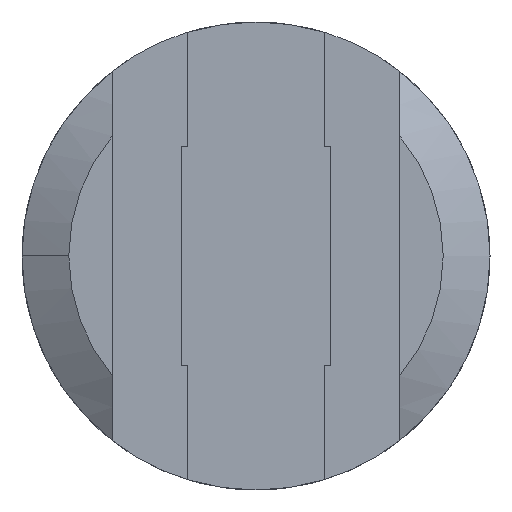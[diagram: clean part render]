
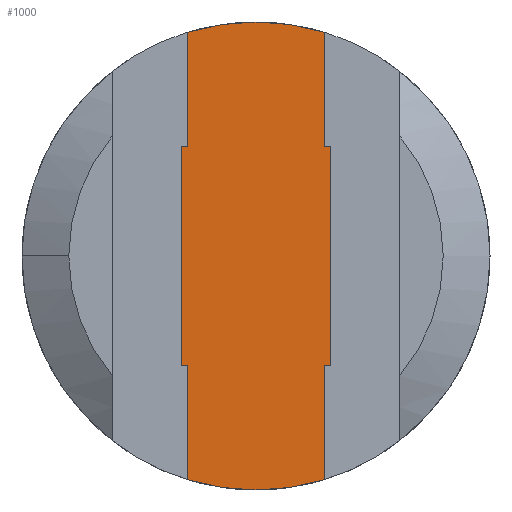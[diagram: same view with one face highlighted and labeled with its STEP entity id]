
A CAD part, top view. The second image highlights one B-rep face of the part: STEP entity #1000.
In plain terms, the highlighted planar face has unit normal (0, 0, 1).
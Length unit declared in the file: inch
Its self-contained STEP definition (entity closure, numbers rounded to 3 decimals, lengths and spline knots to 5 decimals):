
#86=CARTESIAN_POINT('',(0.,0.,0.128));
#87=DIRECTION('',(0.,0.,1.));
#88=DIRECTION('',(0.294,0.956,0.));
#89=AXIS2_PLACEMENT_3D('',#86,#87,#88);
#190=CARTESIAN_POINT('',(0.,0.,0.128));
#191=DIRECTION('',(0.,0.,1.));
#192=DIRECTION('',(-0.294,-0.956,0.));
#193=AXIS2_PLACEMENT_3D('',#190,#191,#192);
#269=DIRECTION('',(0.,1.,0.));
#270=VECTOR('',#269,0.18343);
#271=CARTESIAN_POINT('',(0.11025,0.175,
0.128));
#272=LINE('',#271,#270);
#273=DIRECTION('',(-1.,0.,0.));
#274=VECTOR('',#273,0.00975);
#275=CARTESIAN_POINT('',(0.12,0.175,0.128));
#276=LINE('',#275,#274);
#277=DIRECTION('',(0.,1.,0.));
#278=VECTOR('',#277,0.35);
#279=CARTESIAN_POINT('',(0.12,-0.175,0.128));
#280=LINE('',#279,#278);
#281=DIRECTION('',(1.,0.,0.));
#282=VECTOR('',#281,0.00975);
#283=CARTESIAN_POINT('',(0.11025,-0.175,
0.128));
#284=LINE('',#283,#282);
#285=DIRECTION('',(0.,1.,0.));
#286=VECTOR('',#285,0.18343);
#287=CARTESIAN_POINT('',(0.11025,-0.35843,
0.128));
#288=LINE('',#287,#286);
#289=DIRECTION('',(0.,1.,0.));
#290=VECTOR('',#289,0.35);
#291=CARTESIAN_POINT('',(-0.12,-0.175,0.128));
#292=LINE('',#291,#290);
#293=DIRECTION('',(0.,1.,0.));
#294=VECTOR('',#293,0.18343);
#295=CARTESIAN_POINT('',(-0.11025,0.175,
0.128));
#296=LINE('',#295,#294);
#331=DIRECTION('',(1.,0.,0.));
#332=VECTOR('',#331,0.00975);
#333=CARTESIAN_POINT('',(-0.12,0.175,0.128));
#334=LINE('',#333,#332);
#343=DIRECTION('',(-1.,0.,0.));
#344=VECTOR('',#343,0.00975);
#345=CARTESIAN_POINT('',(-0.11025,-0.175,
0.128));
#346=LINE('',#345,#344);
#351=DIRECTION('',(0.,1.,0.));
#352=VECTOR('',#351,0.18343);
#353=CARTESIAN_POINT('',(-0.11025,-0.35843,
0.128));
#354=LINE('',#353,#352);
#555=CARTESIAN_POINT('',(0.11025,0.35843,
0.128));
#557=VERTEX_POINT('',#555);
#560=CARTESIAN_POINT('',(-0.11025,0.35843,
0.128));
#562=VERTEX_POINT('',#560);
#597=CARTESIAN_POINT('',(-0.11025,-0.35843,
0.128));
#599=VERTEX_POINT('',#597);
#602=CARTESIAN_POINT('',(0.11025,-0.35843,
0.128));
#604=VERTEX_POINT('',#602);
#613=CARTESIAN_POINT('',(0.11025,0.175,
0.128));
#614=VERTEX_POINT('',#613);
#615=CARTESIAN_POINT('',(0.12,0.175,0.128));
#616=VERTEX_POINT('',#615);
#617=CARTESIAN_POINT('',(0.12,-0.175,0.128));
#618=VERTEX_POINT('',#617);
#619=CARTESIAN_POINT('',(0.11025,-0.175,
0.128));
#620=VERTEX_POINT('',#619);
#621=CARTESIAN_POINT('',(-0.11025,0.175,
0.128));
#622=VERTEX_POINT('',#621);
#631=CARTESIAN_POINT('',(-0.12,0.175,0.128));
#632=VERTEX_POINT('',#631);
#633=CARTESIAN_POINT('',(-0.12,-0.175,0.128));
#634=VERTEX_POINT('',#633);
#635=CARTESIAN_POINT('',(-0.11025,-0.175,
0.128));
#636=VERTEX_POINT('',#635);
#972=CARTESIAN_POINT('',(0.,0.,0.128));
#973=DIRECTION('',(0.,0.,1.));
#974=DIRECTION('',(1.,0.,0.));
#975=AXIS2_PLACEMENT_3D('',#972,#973,#974);
#976=PLANE('',#975);
#978=ORIENTED_EDGE('',*,*,#977,.T.);
#979=ORIENTED_EDGE('',*,*,#786,.F.);
#981=ORIENTED_EDGE('',*,*,#980,.F.);
#983=ORIENTED_EDGE('',*,*,#982,.F.);
#985=ORIENTED_EDGE('',*,*,#984,.F.);
#987=ORIENTED_EDGE('',*,*,#986,.F.);
#988=ORIENTED_EDGE('',*,*,#958,.F.);
#989=ORIENTED_EDGE('',*,*,#857,.F.);
#991=ORIENTED_EDGE('',*,*,#990,.T.);
#993=ORIENTED_EDGE('',*,*,#992,.T.);
#995=ORIENTED_EDGE('',*,*,#994,.T.);
#997=ORIENTED_EDGE('',*,*,#996,.T.);
#998=EDGE_LOOP('',(#978,#979,#981,#983,#985,#987,#988,#989,#991,#993,#995,
#997));
#999=FACE_OUTER_BOUND('',#998,.F.);
#90=CIRCLE('',#89,0.375);
#194=CIRCLE('',#193,0.375);
#786=EDGE_CURVE('',#557,#562,#90,.T.);
#857=EDGE_CURVE('',#599,#604,#194,.T.);
#958=EDGE_CURVE('',#604,#620,#288,.T.);
#977=EDGE_CURVE('',#622,#562,#296,.T.);
#980=EDGE_CURVE('',#614,#557,#272,.T.);
#982=EDGE_CURVE('',#616,#614,#276,.T.);
#984=EDGE_CURVE('',#618,#616,#280,.T.);
#986=EDGE_CURVE('',#620,#618,#284,.T.);
#990=EDGE_CURVE('',#599,#636,#354,.T.);
#992=EDGE_CURVE('',#636,#634,#346,.T.);
#994=EDGE_CURVE('',#634,#632,#292,.T.);
#996=EDGE_CURVE('',#632,#622,#334,.T.);
#1000=ADVANCED_FACE('',(#999),#976,.T.);
